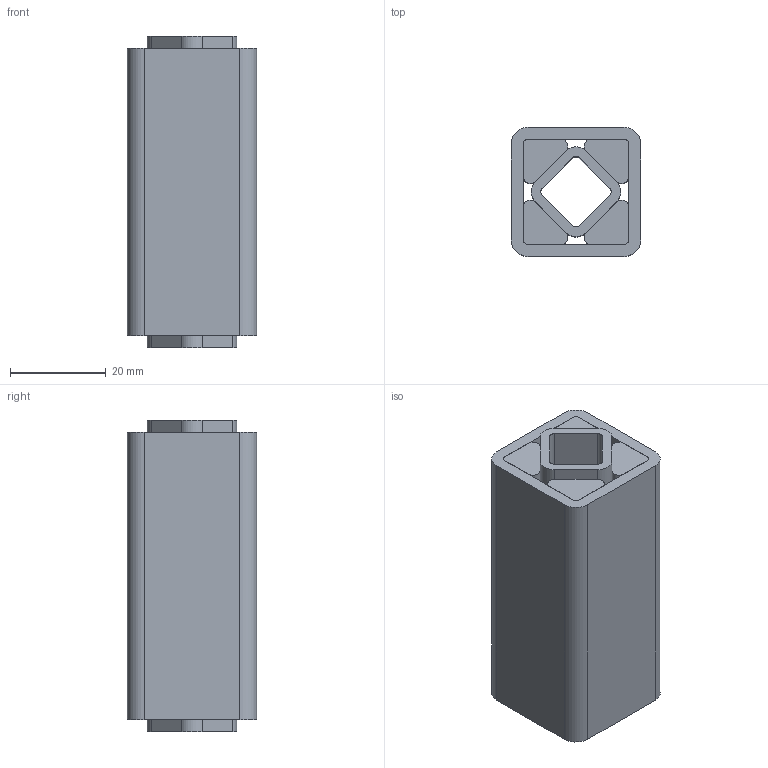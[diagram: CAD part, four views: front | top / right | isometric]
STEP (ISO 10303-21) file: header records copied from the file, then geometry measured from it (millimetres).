
FILE_DESCRIPTION((''),'2;1');
FILE_NAME('D:\ROSTA\Gummifederelemente\3D\DR-S15x60_01021006.stp','2005-02-02T04:17:49',('Administrator'),(''),'Autodesk Inventor 8','Autodesk Inventor 8','');
FILE_SCHEMA(('AUTOMOTIVE_DESIGN { 1 0 10303 214 1 1 1 1 }'));
Length unit declared in the file: millimetre
Products named in the file (4): Baugruppe2; 4.4.3726-009; 4.4.3726-010; 4.4.3726-011
Assembly tree (6 placements, depth 2):
  Baugruppe2
    4.4.3726-009
    4.4.3726-010
    4.4.3726-011  x4
Bounding box: 27 x 27 x 65 mm (x, y, z)
Volume: 34624.8 mm3; surface area: 26200.9 mm2
Topology: 6 solids, 6 shells, 68 faces, 168 edges, 112 vertices
Faces by surface type: plane 40, cylinder 28
Entity records: 1491 total; most frequent: DIRECTION 260, CARTESIAN_POINT 244, ORIENTED_EDGE 228, EDGE_CURVE 114, AXIS2_PLACEMENT_3D 92, VERTEX_POINT 76, VECTOR 76, LINE 76
